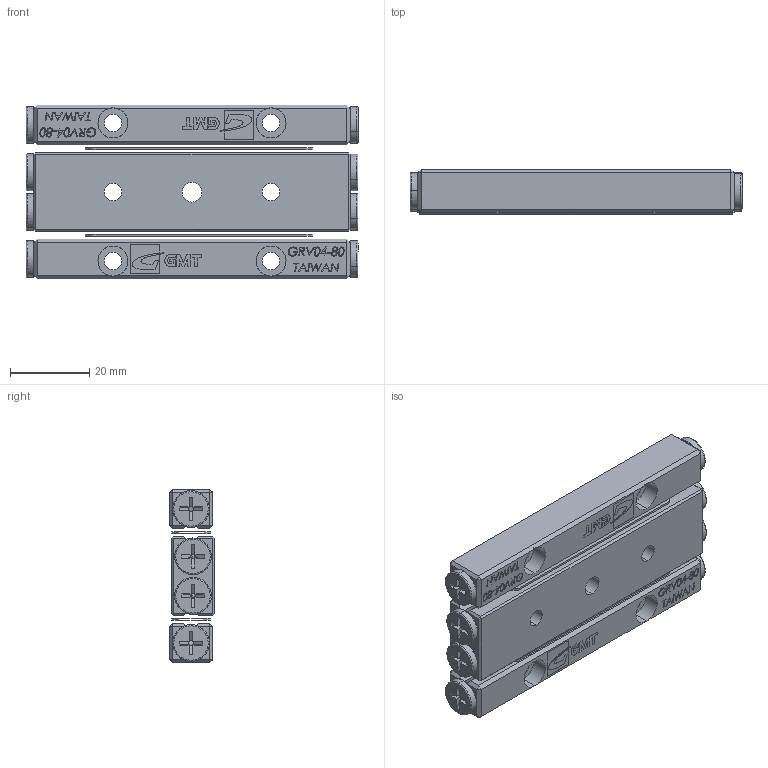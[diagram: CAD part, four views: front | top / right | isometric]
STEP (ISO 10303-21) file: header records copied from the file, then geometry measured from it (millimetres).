
FILE_DESCRIPTION (( 'STEP AP203' ), '1' );
FILE_NAME ('GRD04-80.STEP', '2012-10-17T07:07:57', ( '123' ), ( '' ), 'SwSTEP 2.0', 'SolidWorks 2012', '' );
FILE_SCHEMA (( 'CONFIG_CONTROL_DESIGN' ));
Length unit declared in the file: millimetre
Products named in the file (1): GRD04-80
Bounding box: 84 x 11.5 x 43.93 mm (x, y, z)
Surface area: 17059.5 mm2 (no closed solid volume)
Topology: 0 solids, 17 shells, 693 faces, 2980 edges, 2172 vertices
Faces by surface type: plane 500, cylinder 72, bspline 69, torus 32, cone 20
Entity records: 37301 total; most frequent: CARTESIAN_POINT 14267, ORIENTED_EDGE 4346, DIRECTION 4326, EDGE_CURVE 2972, VERTEX_POINT 2172, LINE 2048, VECTOR 2048, AXIS2_PLACEMENT_3D 1139
